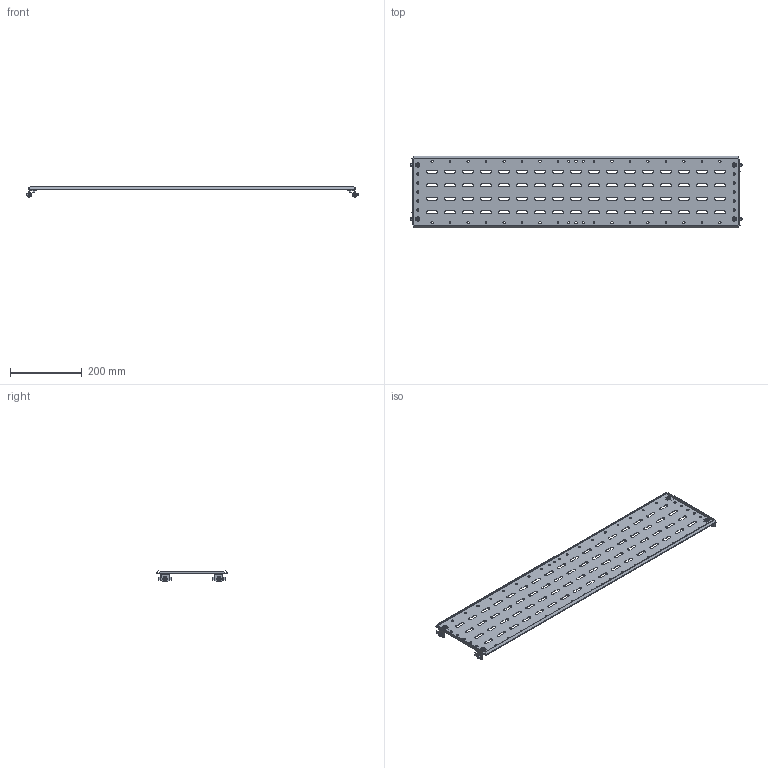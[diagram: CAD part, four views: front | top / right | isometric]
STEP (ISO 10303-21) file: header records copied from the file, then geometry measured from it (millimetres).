
FILE_DESCRIPTION (( 'STEP AP214' ), '1' );
FILE_NAME ('FO-00-SWF-020-100 Ïåðåãîðîäêà ñåêöèîíèðîâàíèÿ çàäíÿÿ 200õ1000 ìì.STEP', '2025-08-12T09:26:45', ( '' ), ( '' ), 'SwSTEP 2.0', 'SolidWorks 2023', '' );
FILE_SCHEMA (( 'AUTOMOTIVE_DESIGN' ));
Length unit declared in the file: millimetre
Products named in the file (1): FO-00-SWF-020-100 Перегородка секционирования задняя 200х1000 мм
Bounding box: 922.4 x 197.66 x 30.52 mm (x, y, z)
Volume: 281822.1 mm3; surface area: 379473.3 mm2
Topology: 1 solids, 5 shells, 844 faces, 2346 edges, 1540 vertices
Faces by surface type: cylinder 476, plane 304, cone 32, torus 32
Entity records: 27877 total; most frequent: DIRECTION 5084, CARTESIAN_POINT 4731, ORIENTED_EDGE 4692, EDGE_CURVE 2346, AXIS2_PLACEMENT_3D 1893, VERTEX_POINT 1540, LINE 1298, VECTOR 1298
